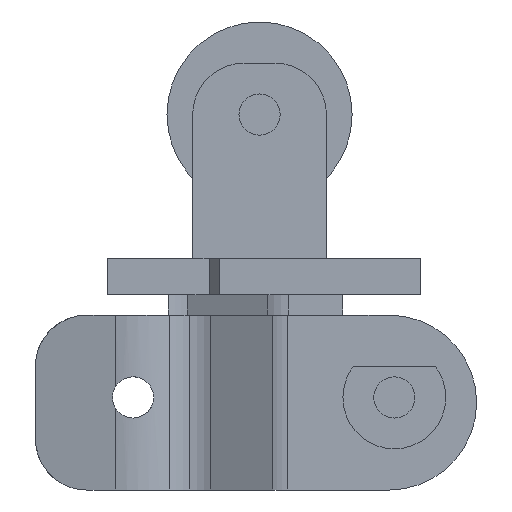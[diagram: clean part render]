
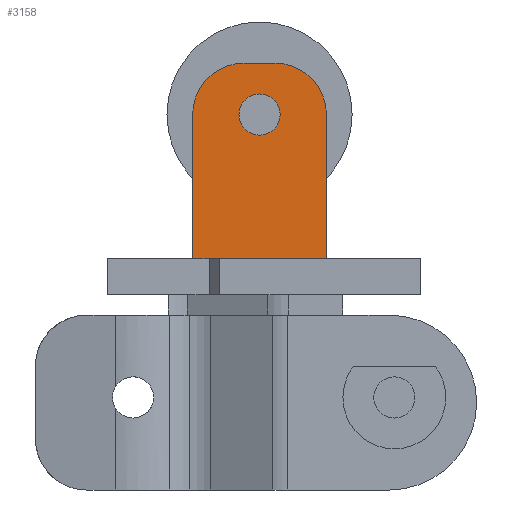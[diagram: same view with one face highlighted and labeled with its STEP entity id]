
A CAD part, left-side view. The second image highlights one B-rep face of the part: STEP entity #3158.
In plain terms, the highlighted planar face has unit normal (-1, 0, 0).
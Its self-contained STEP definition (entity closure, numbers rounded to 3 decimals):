
#1846 = DIRECTION ( 'NONE',  ( 0., 0., 1. ) ) ;
#1847 = DIRECTION ( 'NONE',  ( -1., 0., 0. ) ) ;
#1848 = CARTESIAN_POINT ( 'NONE',  ( 184.85, 182.406, 0. ) ) ;
#1849 = AXIS2_PLACEMENT_3D ( 'NONE', #1848, #1847, #1846 ) ;
#1855 = CIRCLE ( 'NONE', #1849, 2. ) ;
#1886 = DIRECTION ( 'NONE',  ( 0., 0., -1. ) ) ;
#1887 = VECTOR ( 'NONE', #1886, 1000. ) ;
#1888 = CARTESIAN_POINT ( 'NONE',  ( 184.85, 175.906, 5. ) ) ;
#1889 = CARTESIAN_POINT ( 'NONE',  ( 184.85, 175.906, -14. ) ) ;
#1901 = LINE ( 'NONE', #1888, #1887 ) ;
#1942 = CARTESIAN_POINT ( 'NONE',  ( 184.85, 182.406, 2. ) ) ;
#2936 = VERTEX_POINT ( 'NONE', #1942 ) ;
#2957 = EDGE_CURVE ( 'NONE', #3152, #2971, #1901, .T. ) ;
#2958 = EDGE_LOOP ( 'NONE', ( #3154, #3079, #3151, #3155, #3167, #3153, #3068 ) ) ;
#2963 = EDGE_CURVE ( 'NONE', #2936, #3184, #1855, .T. ) ;
#2971 = VERTEX_POINT ( 'NONE', #1889 ) ;
#3066 = EDGE_CURVE ( 'NONE', #3080, #3092, #4596, .T. ) ;
#3067 = EDGE_CURVE ( 'NONE', #3164, #3082, #4610, .T. ) ;
#3068 = ORIENTED_EDGE ( 'NONE', *, *, #3071, .T. ) ;
#3070 = ORIENTED_EDGE ( 'NONE', *, *, #2963, .F. ) ;
#3071 = EDGE_CURVE ( 'NONE', #3164, #2971, #4635, .T. ) ;
#3079 = ORIENTED_EDGE ( 'NONE', *, *, #3165, .T. ) ;
#3080 = VERTEX_POINT ( 'NONE', #4609 ) ;
#3082 = VERTEX_POINT ( 'NONE', #4602 ) ;
#3088 = EDGE_CURVE ( 'NONE', #3092, #3082, #4612, .T. ) ;
#3092 = VERTEX_POINT ( 'NONE', #4852 ) ;
#3104 = EDGE_CURVE ( 'NONE', #3184, #2936, #4828, .T. ) ;
#3151 = ORIENTED_EDGE ( 'NONE', *, *, #3156, .F. ) ;
#3152 = VERTEX_POINT ( 'NONE', #4823 ) ;
#3153 = ORIENTED_EDGE ( 'NONE', *, *, #3067, .F. ) ;
#3154 = ORIENTED_EDGE ( 'NONE', *, *, #2957, .F. ) ;
#3155 = ORIENTED_EDGE ( 'NONE', *, *, #3066, .T. ) ;
#3156 = EDGE_CURVE ( 'NONE', #3080, #3170, #4642, .T. ) ;
#3157 = EDGE_LOOP ( 'NONE', ( #3070, #3166 ) ) ;
#3158 = ADVANCED_FACE ( 'NONE', ( #4844, #4831 ), #4684, .F. ) ;
#3164 = VERTEX_POINT ( 'NONE', #4992 ) ;
#3165 = EDGE_CURVE ( 'NONE', #3152, #3170, #5004, .T. ) ;
#3166 = ORIENTED_EDGE ( 'NONE', *, *, #3104, .F. ) ;
#3167 = ORIENTED_EDGE ( 'NONE', *, *, #3088, .T. ) ;
#3170 = VERTEX_POINT ( 'NONE', #5000 ) ;
#3184 = VERTEX_POINT ( 'NONE', #4964 ) ;
#4590 = DIRECTION ( 'NONE',  ( 0., 0., -1. ) ) ;
#4591 = DIRECTION ( 'NONE',  ( -1., 0., 0. ) ) ;
#4593 = AXIS2_PLACEMENT_3D ( 'NONE', #4595, #4591, #4590 ) ;
#4595 = CARTESIAN_POINT ( 'NONE',  ( 184.85, 183.906, 0. ) ) ;
#4596 = CIRCLE ( 'NONE', #4593, 5. ) ;
#4599 = VECTOR ( 'NONE', #4620, 1000. ) ;
#4602 = CARTESIAN_POINT ( 'NONE',  ( 184.85, 188.906, -14. ) ) ;
#4603 = DIRECTION ( 'NONE',  ( 0., -1., 0. ) ) ;
#4608 = VECTOR ( 'NONE', #4615, 1000. ) ;
#4609 = CARTESIAN_POINT ( 'NONE',  ( 184.85, 183.906, 5. ) ) ;
#4610 = LINE ( 'NONE', #4611, #4608 ) ;
#4611 = CARTESIAN_POINT ( 'NONE',  ( 184.85, 187.001, -14. ) ) ;
#4612 = LINE ( 'NONE', #4630, #4599 ) ;
#4615 = DIRECTION ( 'NONE',  ( 0., 1., 0. ) ) ;
#4620 = DIRECTION ( 'NONE',  ( 0., 0., -1. ) ) ;
#4625 = VECTOR ( 'NONE', #4603, 1000. ) ;
#4630 = CARTESIAN_POINT ( 'NONE',  ( 184.85, 188.906, 5. ) ) ;
#4634 = CARTESIAN_POINT ( 'NONE',  ( 184.85, 175.906, -14. ) ) ;
#4635 = LINE ( 'NONE', #4634, #4625 ) ;
#4641 = CARTESIAN_POINT ( 'NONE',  ( 184.85, 175.906, 5. ) ) ;
#4642 = LINE ( 'NONE', #4641, #4663 ) ;
#4662 = DIRECTION ( 'NONE',  ( 0., -1., 0. ) ) ;
#4663 = VECTOR ( 'NONE', #4662, 1000. ) ;
#4683 = CARTESIAN_POINT ( 'NONE',  ( 184.85, 187.001, -14. ) ) ;
#4684 = PLANE ( 'NONE',  #4690 ) ;
#4688 = DIRECTION ( 'NONE',  ( 1., 0., 0. ) ) ;
#4690 = AXIS2_PLACEMENT_3D ( 'NONE', #4683, #4688, #4694 ) ;
#4694 = DIRECTION ( 'NONE',  ( 0., 0., -1. ) ) ;
#4812 = DIRECTION ( 'NONE',  ( 0., 0., 1. ) ) ;
#4823 = CARTESIAN_POINT ( 'NONE',  ( 184.85, 175.906, 0. ) ) ;
#4828 = CIRCLE ( 'NONE', #4842, 2. ) ;
#4831 = FACE_OUTER_BOUND ( 'NONE', #2958, .T. ) ;
#4840 = DIRECTION ( 'NONE',  ( -1., 0., 0. ) ) ;
#4841 = CARTESIAN_POINT ( 'NONE',  ( 184.85, 182.406, 0. ) ) ;
#4842 = AXIS2_PLACEMENT_3D ( 'NONE', #4841, #4840, #4812 ) ;
#4844 = FACE_BOUND ( 'NONE', #3157, .T. ) ;
#4852 = CARTESIAN_POINT ( 'NONE',  ( 184.85, 188.906, 0. ) ) ;
#4943 = DIRECTION ( 'NONE',  ( -1., 0., 0. ) ) ;
#4956 = AXIS2_PLACEMENT_3D ( 'NONE', #4974, #4943, #4972 ) ;
#4964 = CARTESIAN_POINT ( 'NONE',  ( 184.85, 182.406, -2. ) ) ;
#4972 = DIRECTION ( 'NONE',  ( 0., 0., -1. ) ) ;
#4974 = CARTESIAN_POINT ( 'NONE',  ( 184.85, 180.906, 0. ) ) ;
#4992 = CARTESIAN_POINT ( 'NONE',  ( 184.85, 187.001, -14. ) ) ;
#5000 = CARTESIAN_POINT ( 'NONE',  ( 184.85, 180.906, 5. ) ) ;
#5004 = CIRCLE ( 'NONE', #4956, 5. ) ;
